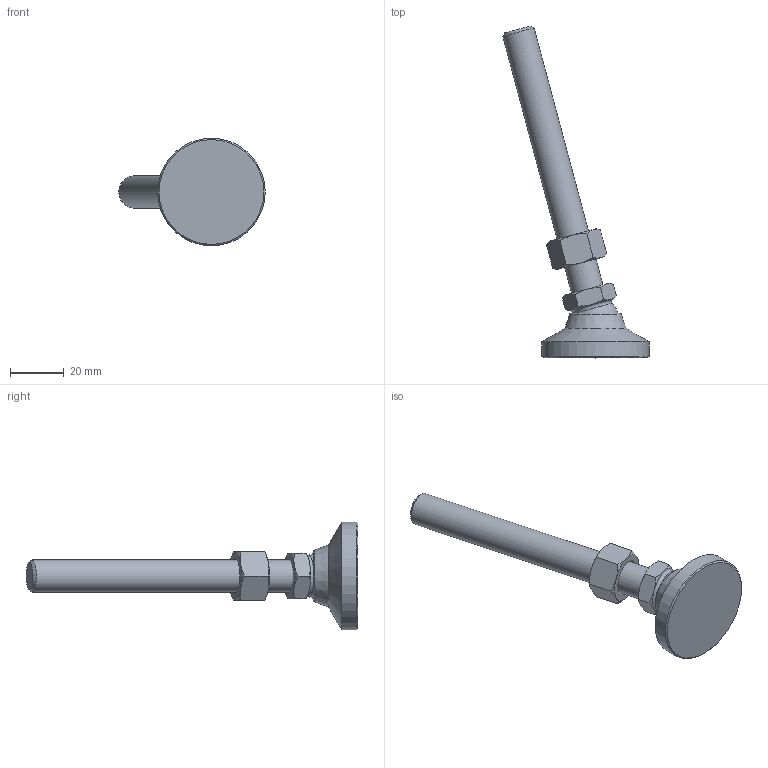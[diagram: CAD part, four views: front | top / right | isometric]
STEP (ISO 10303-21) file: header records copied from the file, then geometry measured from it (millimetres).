
FILE_DESCRIPTION( ( 'STEP AP214' ), ' ' );
FILE_NAME( 'O:/ganter_2015/teil_2/2_5/gn343_2/gn343_2_os/Levelling foot with threaded stud GN 343.2-40-M12-100-OS-(15).stp', '2015-10-26T09:07:40', ( '' ), ( '' ), ' ', 'PARTsolutions', ' ' );
FILE_SCHEMA( ( 'AUTOMOTIVE_DESIGN { 1 0 10303 214 1 1 1 1 }' ) );
Length unit declared in the file: millimetre
Products named in the file (4): Levelling foot with threaded stud GN 343.2-40-M12-100-OS-(15); _Levelling foot with threaded stud GN 343.2-40-M12-100-OS-(15)_foot; _Levelling foot with threaded stud GN 343.2-40-M12-100-OS-(15)_screw; _Stainless Steel-Levelling feet GN 343.2-40-M12-100-OS-(15)_nut
Assembly tree (3 placements, depth 2):
  Levelling foot with threaded stud GN 343.2-40-M12-100-OS-(15)
    _Levelling foot with threaded stud GN 343.2-40-M12-100-OS-(15)_foot
    _Levelling foot with threaded stud GN 343.2-40-M12-100-OS-(15)_screw
    _Stainless Steel-Levelling feet GN 343.2-40-M12-100-OS-(15)_nut
Bounding box: 54.47 x 123.49 x 40 mm (x, y, z)
Volume: 29002.8 mm3; surface area: 10524.8 mm2
Topology: 3 solids, 3 shells, 55 faces, 116 edges, 67 vertices
Faces by surface type: cone 30, plane 18, cylinder 3, torus 2, sphere 2
Full cylindrical faces by diameter (mm): 10.106 x1, 12 x1, 40 x1
Entity records: 2038 total; most frequent: CARTESIAN_POINT 495, DIRECTION 208, ORIENTED_EDGE 198, EDGE_CURVE 99, AXIS2_PLACEMENT_3D 98, EDGE_LOOP 70, VERTEX_POINT 65, FACE_OUTER_BOUND 60
